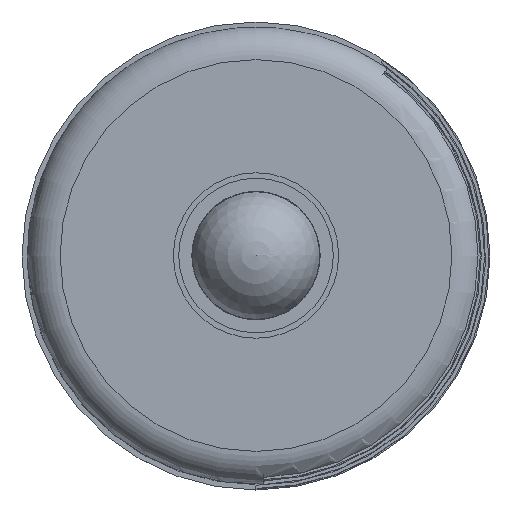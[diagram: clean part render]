
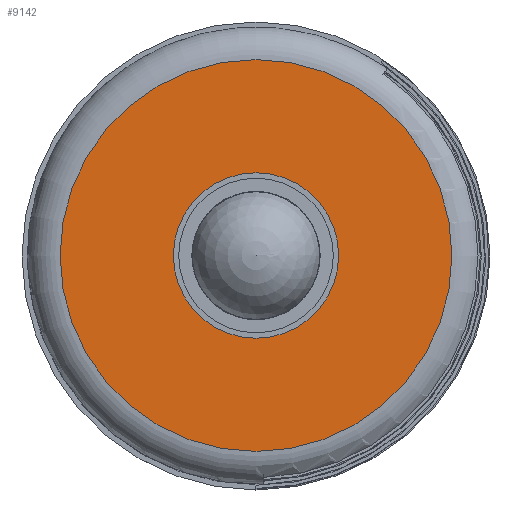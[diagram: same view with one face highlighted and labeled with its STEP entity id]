
A CAD part, top view. The second image highlights one B-rep face of the part: STEP entity #9142.
In plain terms, the highlighted planar face has unit normal (0, 0, 1).
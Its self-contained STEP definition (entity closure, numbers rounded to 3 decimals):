
#8454 = TOROIDAL_SURFACE('',#8455,180.,30.);
#8455 = AXIS2_PLACEMENT_3D('',#8456,#8457,#8458);
#8456 = CARTESIAN_POINT('',(0.,0.,225.));
#8457 = DIRECTION('',(0.,0.,1.));
#8458 = DIRECTION('',(1.,0.,-0.));
#8811 = VERTEX_POINT('',#8812);
#8812 = CARTESIAN_POINT('',(180.,0.,255.));
#8832 = EDGE_CURVE('',#8811,#8811,#8833,.T.);
#8833 = SURFACE_CURVE('',#8834,(#8839,#8846),.PCURVE_S1.);
#8834 = CIRCLE('',#8835,180.);
#8835 = AXIS2_PLACEMENT_3D('',#8836,#8837,#8838);
#8836 = CARTESIAN_POINT('',(0.,0.,255.));
#8837 = DIRECTION('',(0.,0.,1.));
#8838 = DIRECTION('',(1.,0.,-0.));
#8839 = PCURVE('',#8454,#8840);
#8840 = DEFINITIONAL_REPRESENTATION('',(#8841),#8845);
#8841 = LINE('',#8842,#8843);
#8842 = CARTESIAN_POINT('',(0.,1.571));
#8843 = VECTOR('',#8844,1.);
#8844 = DIRECTION('',(1.,0.));
#8845 = ( GEOMETRIC_REPRESENTATION_CONTEXT(2) 
PARAMETRIC_REPRESENTATION_CONTEXT() REPRESENTATION_CONTEXT('2D SPACE',''
  ) );
#8846 = PCURVE('',#8847,#8852);
#8847 = PLANE('',#8848);
#8848 = AXIS2_PLACEMENT_3D('',#8849,#8850,#8851);
#8849 = CARTESIAN_POINT('',(0.,0.,255.)
  );
#8850 = DIRECTION('',(0.,0.,1.));
#8851 = DIRECTION('',(1.,0.,-0.));
#8852 = DEFINITIONAL_REPRESENTATION('',(#8853),#8857);
#8853 = CIRCLE('',#8854,180.);
#8854 = AXIS2_PLACEMENT_2D('',#8855,#8856);
#8855 = CARTESIAN_POINT('',(0.,0.));
#8856 = DIRECTION('',(1.,0.));
#8857 = ( GEOMETRIC_REPRESENTATION_CONTEXT(2) 
PARAMETRIC_REPRESENTATION_CONTEXT() REPRESENTATION_CONTEXT('2D SPACE',''
  ) );
#9142 = ADVANCED_FACE('',(#9143,#9146),#8847,.T.);
#9143 = FACE_BOUND('',#9144,.T.);
#9144 = EDGE_LOOP('',(#9145));
#9145 = ORIENTED_EDGE('',*,*,#8832,.T.);
#9146 = FACE_BOUND('',#9147,.T.);
#9147 = EDGE_LOOP('',(#9148));
#9148 = ORIENTED_EDGE('',*,*,#9149,.T.);
#9149 = EDGE_CURVE('',#9150,#9150,#9152,.T.);
#9150 = VERTEX_POINT('',#9151);
#9151 = CARTESIAN_POINT('',(62.,0.,255.));
#9152 = SURFACE_CURVE('',#9153,(#9158,#9169),.PCURVE_S1.);
#9153 = CIRCLE('',#9154,62.);
#9154 = AXIS2_PLACEMENT_3D('',#9155,#9156,#9157);
#9155 = CARTESIAN_POINT('',(0.,0.,255.));
#9156 = DIRECTION('',(0.,0.,-1.));
#9157 = DIRECTION('',(1.,0.,0.));
#9158 = PCURVE('',#8847,#9159);
#9159 = DEFINITIONAL_REPRESENTATION('',(#9160),#9168);
#9160 = ( BOUNDED_CURVE() B_SPLINE_CURVE(2,(#9161,#9162,#9163,#9164,
#9165,#9166,#9167),.UNSPECIFIED.,.T.,.F.) B_SPLINE_CURVE_WITH_KNOTS((1,2
    ,2,2,2,1),(-2.094,0.,2.094,4.189,
6.283,8.378),.UNSPECIFIED.) CURVE() 
GEOMETRIC_REPRESENTATION_ITEM() RATIONAL_B_SPLINE_CURVE((1.,0.5,1.,0.5,
1.,0.5,1.)) REPRESENTATION_ITEM('') );
#9161 = CARTESIAN_POINT('',(62.,0.));
#9162 = CARTESIAN_POINT('',(62.,-107.387));
#9163 = CARTESIAN_POINT('',(-31.,-53.694));
#9164 = CARTESIAN_POINT('',(-124.,0.));
#9165 = CARTESIAN_POINT('',(-31.,53.694));
#9166 = CARTESIAN_POINT('',(62.,107.387));
#9167 = CARTESIAN_POINT('',(62.,0.));
#9168 = ( GEOMETRIC_REPRESENTATION_CONTEXT(2) 
PARAMETRIC_REPRESENTATION_CONTEXT() REPRESENTATION_CONTEXT('2D SPACE',''
  ) );
#9169 = PCURVE('',#9170,#9175);
#9170 = CYLINDRICAL_SURFACE('',#9171,62.);
#9171 = AXIS2_PLACEMENT_3D('',#9172,#9173,#9174);
#9172 = CARTESIAN_POINT('',(0.,0.,245.));
#9173 = DIRECTION('',(-0.,-0.,-1.));
#9174 = DIRECTION('',(1.,0.,0.));
#9175 = DEFINITIONAL_REPRESENTATION('',(#9176),#9180);
#9176 = LINE('',#9177,#9178);
#9177 = CARTESIAN_POINT('',(-6.283,-10.));
#9178 = VECTOR('',#9179,1.);
#9179 = DIRECTION('',(1.,-0.));
#9180 = ( GEOMETRIC_REPRESENTATION_CONTEXT(2) 
PARAMETRIC_REPRESENTATION_CONTEXT() REPRESENTATION_CONTEXT('2D SPACE',''
  ) );
